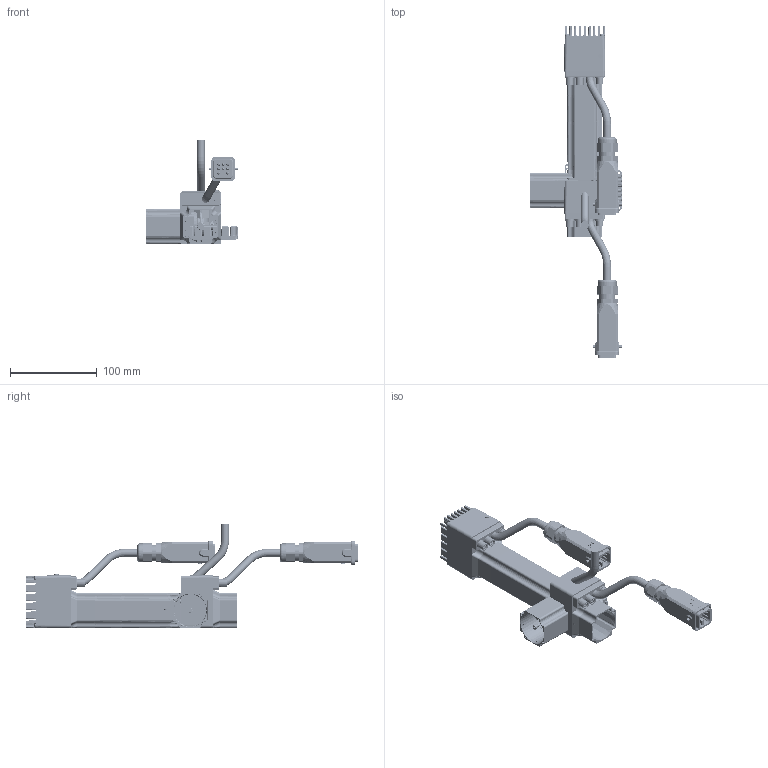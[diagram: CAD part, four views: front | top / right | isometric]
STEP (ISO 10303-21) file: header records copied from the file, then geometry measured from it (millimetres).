
FILE_DESCRIPTION( ( 'Unknown' ), '1' );
FILE_NAME( 'K:/Q0A976.stp', 'Unknown', ( 'Unknown' ), ( 'Unknown' ), 'PSStep 14.0', 'Unknown', ' ' );
FILE_SCHEMA( ( 'AUTOMOTIVE_DESIGN { 1 0 10303 214 1 1 1 1 }' ) );
Length unit declared in the file: millimetre
Products named in the file (46): 003108020031; 003755102005; 007117000802; Assem1; 005117001543; 005117001544; 005603001500; CAVO D9 N13A48; 005117000974; 005117000976; 003755102004; 003251021000; 003303000026; 005007000200; 003175000136; CUSC_7_19_6_607_ZZ; Vite a brugola testa cil 8,8 -  M  3 x 35; Vite a brugola testa cil 8,8 -  M  3 x 35-oa0; Vite a brugola testa cil 8,8 -  M  3 x 35-oa1; Vite a brugola testa cil 8,8 -  M  3 x 35-oa2; Vite a brugola testa cil 8,8 -  M 2,5 x 16; Vite a brugola testa cil 8,8 -  M 2,5 x 16-oa3; Vite a brugola testa cil 8,8 -  M 2,5 x 16-oa4; Vite a brugola testa cil 8,8 -  M 2,5 x 16-oa5; Anello OR 1 D26; Anello OR 1 D19-oa6; CUSC_10_26_8_6000_ZZ; 005009000072; VECST-8112 M  2,5 x 12; 003303000030; 003016000054; LI-PIA   3x3 x 15; 003155001088; 003911000268; 003003199252; 003120002007
Bounding box: 105.29 x 382.37 x 120.14 mm (x, y, z)
Volume: 431713.6 mm3; surface area: 365032 mm2
Topology: 104 solids, 108 shells, 13220 faces, 34224 edges, 21639 vertices
Faces by surface type: plane 6783, cylinder 4327, bspline 816, sphere 444, cone 399, torus 365, extrusion 86
Full cylindrical faces by diameter (mm): 0.226 x5, 0.296 x5, 0.95 x5, 1 x64, 1.05 x5, 1.6 x40, 1.75 x40, 1.8 x5, 2 x17, 2.013 x24, 2.025 x5, 2.05 x4, 2.25 x5, 2.459 x16, 2.5 x24, 2.6 x38, 2.8 x40, 3 x34, 3.2 x130, 3.242 x4, 3.4 x40, 3.5 x4, 4 x5, 4.2 x2, 4.5 x2, 4.7 x8, 4.75 x15, 5 x7, 5.5 x8, 6 x9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
Entity records: 173229 total; most frequent: CARTESIAN_POINT 43628, DIRECTION 20675, ORIENTED_EDGE 19934, EDGE_CURVE 9967, AXIS2_PLACEMENT_3D 7639, VERTEX_POINT 6408, VECTOR 5397, LINE 5375
